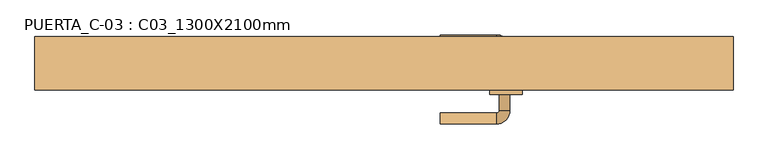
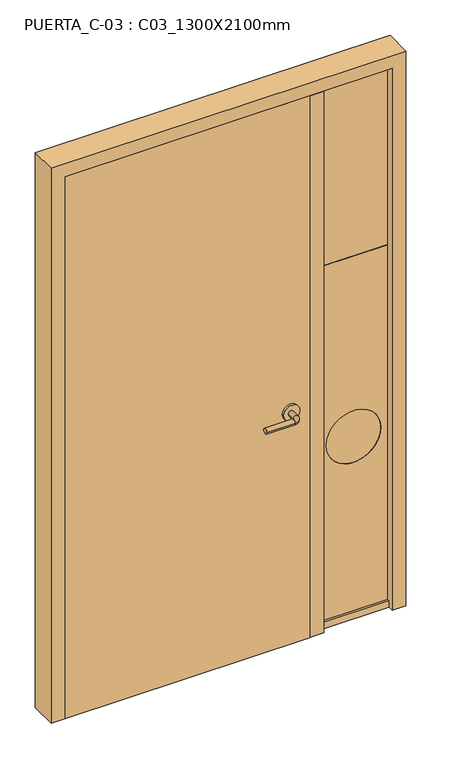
"""IFC4 building model written with IfcOpenShell, lengths in millimetres: door geometry, PUERTA_C-03 : C03_1300X2100mm."""

from ifc_helpers import new_model, si_unit, point, frame, frame_2d, origin, origin_with_axes, place, context, project, spatial, polyline, circle_curve, ellipse_curve, trimmed, segment, composite_curve, outline, extrude, faceted_brep, source, transform, mapped, element, save
from ifc_brep_helpers import plane_surface, cylinder_surface, revolved_surface, advanced_brep


def puerta_c_03_c03_1300x2100mm_be522cc0(model_context):
    return source(origin(), model_context, "Body", "SolidModel", [
        advanced_brep(
        [(234.59375, -18.35, 900.0), (214.59375, -18.35, 900.0), (214.59375, 11.65, 900.0), (234.59375, 11.65, 900.0), (209.59375, 16.65, 900.0), (209.59375, 36.65, 900.0), (104.59375, 36.65, 900.0), (104.59375, 16.65, 900.0)],
        [
            (0, 1, circle_curve(frame((224.59375, -18.35, 900.0), z_axis=(0.0, -1.0, 0.0), x_axis=(-1.0, 0.0, 0.0)), 10.0)),
            (1, 0, circle_curve(frame((224.59375, -18.35, 900.0), z_axis=(0.0, -1.0, 0.0), x_axis=(-1.0, 0.0, 0.0)), 10.0)),
            (1, 2),
            (2, 3, circle_curve(frame((224.59375, 11.65, 900.0), z_axis=(0.0, -1.0, 0.0), x_axis=(-1.0, 0.0, 0.0)), 10.0)),
            (3, 0),
            (3, 2, circle_curve(frame((224.59375, 11.65, 900.0), z_axis=(0.0, -1.0, 0.0), x_axis=(-1.0, 0.0, 0.0)), 10.0)),
            (4, 5, circle_curve(frame((209.59375, 26.65, 900.0), z_axis=(1.0, 0.0, 0.0), x_axis=(0.0, -1.0, 0.0)), 10.0)),
            (5, 3, circle_curve(frame((209.59375, 11.65, 900.0), z_axis=(0.0, 0.0, -1.0), x_axis=(1.0, 0.0, 0.0)), 25.0)),
            (2, 4, circle_curve(frame((209.59375, 11.65, 900.0), z_axis=(0.0, 0.0, 1.0), x_axis=(1.0, 0.0, 0.0)), 5.0)),
            (5, 4, circle_curve(frame((209.59375, 26.65, 900.0), z_axis=(1.0, 0.0, 0.0), x_axis=(0.0, -1.0, 0.0)), 10.0)),
            (6, 7, circle_curve(frame((104.59375, 26.65, 900.0), z_axis=(-1.0, 0.0, 0.0), x_axis=(0.0, -1.0, 0.0)), 10.0)),
            (7, 6, circle_curve(frame((104.59375, 26.65, 900.0), z_axis=(-1.0, 0.0, 0.0), x_axis=(0.0, -1.0, 0.0)), 10.0)),
            (4, 7),
            (6, 5),
        ],
        [
            plane_surface(frame((224.59375, -18.35, 900.0), z_axis=(0.0, -1.0, 0.0), x_axis=(0.0, 0.0, 1.0))),
            cylinder_surface(frame((224.59375, -18.35, 900.0), z_axis=(0.0, -1.0, 0.0), x_axis=(-1.0, 0.0, 0.0)), 10.0),
            revolved_surface(trimmed(ellipse_curve(frame((224.59375, 11.65, 900.0), z_axis=(0.0, 1.0, 0.0), x_axis=(-1.0, 0.0, 0.0)), 10.0, 10.0), [point((234.59375, 11.65, 900.0))], [point((214.59375, 11.65, 900.0))], True, "CARTESIAN"), (209.59375, 11.65, 900.0), (0.0, 0.0, -1.0)),
            revolved_surface(trimmed(ellipse_curve(frame((224.59375, 11.65, 900.0), z_axis=(0.0, 1.0, 0.0), x_axis=(-1.0, 0.0, 0.0)), 10.0, 10.0), [point((214.59375, 11.65, 900.0))], [point((234.59375, 11.65, 900.0))], True, "CARTESIAN"), (209.59375, 11.65, 900.0), (0.0, 0.0, -1.0)),
            plane_surface(frame((104.59375, 26.65, 900.0), z_axis=(-1.0, 0.0, 0.0), x_axis=(0.0, 0.0, 1.0))),
            cylinder_surface(frame((209.59375, 26.65, 900.0), z_axis=(1.0, 0.0, 0.0), x_axis=(0.0, -1.0, 0.0)), 10.0),
        ],
        [
            (0, [[1, 2]]),
            (1, [[3, 4, 5, -2]]),
            (1, [[-5, 6, -3, -1]]),
            (2, [[7, 8, -4, 9]]),
            (3, [[10, -9, -6, -8]]),
            (4, [[11, 12]]),
            (5, [[13, -11, 14, -7]]),
            (5, [[-14, -12, -13, -10]]),
        ],
    ),
        extrude(outline(composite_curve([segment(trimmed(circle_curve(frame_2d((900.0, 227.09375)), 30.0), [point((900.0, 257.09375))], [point((900.0, 197.09375))], False, "CARTESIAN"), True, "CONTINUOUS"), segment(trimmed(circle_curve(frame_2d((900.0, 227.09375)), 30.0), [point((900.0, 197.09375))], [point((900.0, 257.09375))], False, "CARTESIAN"), True, "CONTINUOUS")], self_intersect=False)), frame((0.0, -26.35, 0.0), z_axis=(0.0, 1.0, 0.0), x_axis=(0.0, 0.0, 1.0)), (0.0, 0.0, 1.0), 8.0),
        advanced_brep(
        [(234.59375, -74.35, 900.0), (214.59375, -74.35, 900.0), (234.59375, -104.35, 900.0), (214.59375, -104.35, 900.0), (209.59375, -109.35, 900.0), (209.59375, -129.35, 900.0), (104.59375, -129.35, 900.0), (104.59375, -109.35, 900.0)],
        [
            (0, 1, circle_curve(frame((224.59375, -74.35, 900.0), z_axis=(0.0, 1.0, 0.0), x_axis=(-1.0, 0.0, 0.0)), 10.0)),
            (1, 0, circle_curve(frame((224.59375, -74.35, 900.0), z_axis=(0.0, 1.0, 0.0), x_axis=(-1.0, 0.0, 0.0)), 10.0)),
            (0, 2),
            (2, 3, circle_curve(frame((224.59375, -104.35, 900.0), z_axis=(0.0, 1.0, 0.0), x_axis=(-1.0, 0.0, 0.0)), 10.0)),
            (3, 1),
            (3, 2, circle_curve(frame((224.59375, -104.35, 900.0), z_axis=(0.0, 1.0, 0.0), x_axis=(-1.0, 0.0, 0.0)), 10.0)),
            (4, 3, circle_curve(frame((209.59375, -104.35, 900.0), z_axis=(0.0, 0.0, 1.0), x_axis=(1.0, 0.0, 0.0)), 5.0)),
            (2, 5, circle_curve(frame((209.59375, -104.35, 900.0), z_axis=(0.0, 0.0, -1.0), x_axis=(1.0, 0.0, 0.0)), 25.0)),
            (5, 4, circle_curve(frame((209.59375, -119.35, 900.0), z_axis=(1.0, 0.0, 0.0), x_axis=(0.0, 1.0, 0.0)), 10.0)),
            (4, 5, circle_curve(frame((209.59375, -119.35, 900.0), z_axis=(1.0, 0.0, 0.0), x_axis=(0.0, 1.0, 0.0)), 10.0)),
            (6, 7, circle_curve(frame((104.59375, -119.35, 900.0), z_axis=(-1.0, 0.0, 0.0), x_axis=(0.0, 1.0, 0.0)), 10.0)),
            (7, 6, circle_curve(frame((104.59375, -119.35, 900.0), z_axis=(-1.0, 0.0, 0.0), x_axis=(0.0, 1.0, 0.0)), 10.0)),
            (5, 6),
            (7, 4),
        ],
        [
            plane_surface(frame((224.59375, -74.35, 900.0), z_axis=(0.0, 1.0, 0.0), x_axis=(0.0, 0.0, 1.0))),
            cylinder_surface(frame((224.59375, -74.35, 900.0), z_axis=(0.0, 1.0, 0.0), x_axis=(-1.0, 0.0, 0.0)), 10.0),
            revolved_surface(trimmed(ellipse_curve(frame((224.59375, -104.35, 900.0), z_axis=(0.0, 1.0, 0.0), x_axis=(-1.0, 0.0, 0.0)), 10.0, 10.0), [point((234.59375, -104.35, 900.0))], [point((214.59375, -104.35, 900.0))], True, "CARTESIAN"), (209.59375, -104.35, 900.0), (0.0, 0.0, -1.0)),
            revolved_surface(trimmed(ellipse_curve(frame((224.59375, -104.35, 900.0), z_axis=(0.0, 1.0, 0.0), x_axis=(-1.0, 0.0, 0.0)), 10.0, 10.0), [point((214.59375, -104.35, 900.0))], [point((234.59375, -104.35, 900.0))], True, "CARTESIAN"), (209.59375, -104.35, 900.0), (0.0, 0.0, -1.0)),
            plane_surface(frame((104.59375, -119.35, 900.0), z_axis=(-1.0, 0.0, 0.0), x_axis=(0.0, 0.0, 1.0))),
            cylinder_surface(frame((209.59375, -119.35, 900.0), z_axis=(1.0, 0.0, 0.0), x_axis=(0.0, 1.0, 0.0)), 10.0),
        ],
        [
            (0, [[1, 2]]),
            (1, [[-1, 3, 4, 5]]),
            (1, [[-2, -5, 6, -3]]),
            (2, [[7, -4, 8, 9]]),
            (3, [[-8, -6, -7, 10]]),
            (4, [[11, 12]]),
            (5, [[-9, 13, -12, 14]]),
            (5, [[-10, -14, -11, -13]]),
        ],
    ),
        extrude(outline(composite_curve([segment(trimmed(circle_curve(frame_2d((900.0, 227.09375)), 30.0), [point((900.0, 257.09375))], [point((900.0, 197.09375))], False, "CARTESIAN"), True, "CONTINUOUS"), segment(trimmed(circle_curve(frame_2d((900.0, 227.09375)), 30.0), [point((900.0, 197.09375))], [point((900.0, 257.09375))], False, "CARTESIAN"), True, "CONTINUOUS")], self_intersect=False)), frame((0.0, -74.35, 0.0), z_axis=(0.0, 1.0, 0.0), x_axis=(0.0, 0.0, 1.0)), (0.0, 0.0, 1.0), 8.0),
        extrude(outline(polyline([(300.0, -63.1875), (284.125, -63.1875), (284.125, -37.1625), (300.0, -37.1625), (300.0, 12.05), (350.0, 12.05), (350.0, -66.35), (300.0, -66.35), (300.0, -63.1875)])), origin_with_axes(), (0.0, 0.0, 1.0), 2100.0),
        faceted_brep([(600.0, -21.5875, 0.0), (584.125, -21.5875, 0.0), (584.125, 33.65, 0.0), (650.0, 33.65, 0.0), (650.0, -66.35, 0.0), (600.0, -66.35, 0.0), (600.0, -66.35, 2100.0), (600.0, -21.5875, 2100.0), (650.0, -66.35, 2150.0), (-650.0, -66.35, 2150.0), (-650.0, -66.35, 0.0), (-600.0, -66.35, 0.0), (-600.0, -66.35, 2100.0), (650.0, 33.65, 2150.0), (584.125, 33.65, 2084.125), (-584.125, 33.65, 2084.125), (-584.125, 33.65, 0.0), (-650.0, 33.65, 0.0), (-650.0, 33.65, 2150.0), (584.125, -21.5875, 2084.125), (-600.0, -21.5875, 2100.0), (-600.0, -21.5875, 0.0), (-584.125, -21.5875, 0.0), (-584.125, -21.5875, 2084.125)], [[[0, 1, 2, 3, 4, 5]], [[5, 6, 7, 0]], [[4, 8, 9, 10, 11, 12, 6, 5]], [[3, 13, 8, 4]], [[2, 14, 15, 16, 17, 18, 13, 3]], [[1, 19, 14, 2]], [[0, 7, 20, 21, 22, 23, 19, 1]], [[6, 12, 20, 7]], [[13, 18, 9, 8]], [[19, 23, 15, 14]], [[21, 11, 10, 17, 16, 22]], [[12, 11, 21, 20]], [[18, 17, 10, 9]], [[23, 22, 16, 15]]]),
        extrude(outline(polyline([(298.4, -26.35), (298.4, -66.35), (-600.0, -66.35), (-600.0, -26.35), (298.4, -26.35)])), origin_with_axes(), (0.0, 0.0, 1.0), 2100.0),
        extrude(outline(polyline([(2100.0, 350.0), (1400.0, 350.0), (25.0, 350.0), (25.0, 600.0), (1400.0, 600.0), (2100.0, 600.0), (2100.0, 350.0)])), frame((0.0, -36.35, 0.0), z_axis=(0.0, 1.0, 0.0), x_axis=(0.0, 0.0, 1.0)), (0.0, 0.0, 1.0), 10.0),
        extrude(outline(polyline([(25.0, 600.0), (1400.0, 600.0), (1400.0, 350.0), (25.0, 350.0), (25.0, 600.0)]), holes=[composite_curve([segment(trimmed(circle_curve(frame_2d((700.0, 475.0)), 100.0), [point((700.0, 575.0))], [point((700.0, 375.0))], True, "CARTESIAN"), True, "CONTINUOUS"), segment(trimmed(circle_curve(frame_2d((700.0, 475.0)), 100.0), [point((700.0, 375.0))], [point((700.0, 575.0))], True, "CARTESIAN"), True, "CONTINUOUS")], self_intersect=False)]), frame((0.0, -37.35, 0.0), z_axis=(0.0, 1.0, 0.0), x_axis=(0.0, 0.0, 1.0)), (0.0, 0.0, 1.0), 1.0),
        extrude(outline(polyline([(350.0, -46.35), (350.0, -26.35), (600.0, -26.35), (600.0, -46.35), (350.0, -46.35)])), origin_with_axes(), (0.0, 0.0, 1.0), 25.0),
    ])


if __name__ == "__main__":
    model = new_model("IFC4")
    model_context = context("Model", 3, world=origin())
    ifc_project = project(units=[si_unit("LENGTHUNIT", "METRE", prefix="MILLI")], contexts=[model_context])
    site = spatial("IfcSite", under=ifc_project)
    building = spatial("IfcBuilding", under=site)
    placement = place(None, origin())
    puerta_c_03_c03_1300x2100mm_shape = puerta_c_03_c03_1300x2100mm_be522cc0(model_context)
    element("IfcDoor", 1, ObjectType="PUERTA_C-03 : C03_1300X2100mm", at=placement, inside=building, context=model_context, shape_type="MappedRepresentation", body=[
        mapped(puerta_c_03_c03_1300x2100mm_shape, transform((0.0, 0.0, 0.0), x_axis=(1.0, 0.0, 0.0), y_axis=(0.0, 1.0, 0.0), z_axis=(0.0, 0.0, 1.0))),
    ])
    save(model, "model.ifc")
